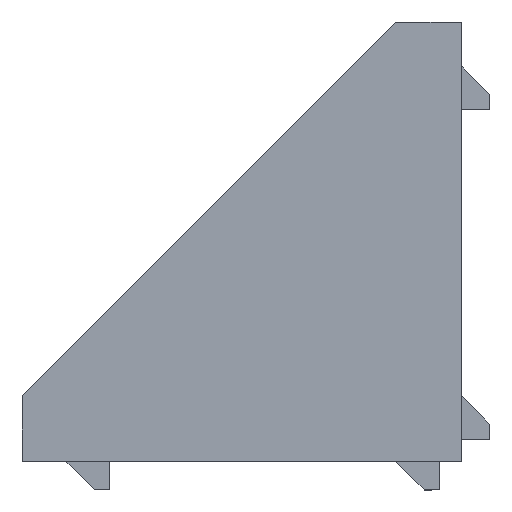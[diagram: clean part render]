
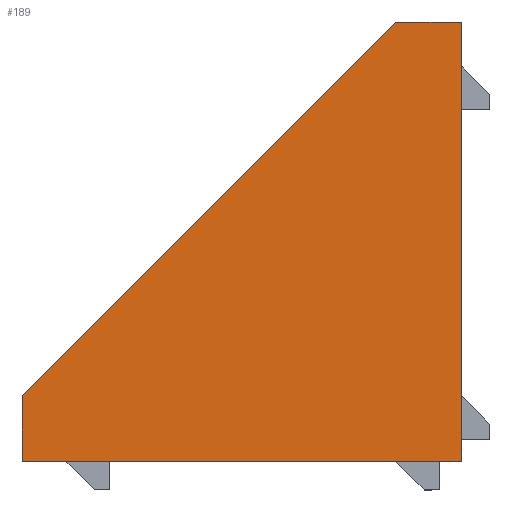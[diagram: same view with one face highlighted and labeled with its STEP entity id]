
A CAD part, left-side view. The second image highlights one B-rep face of the part: STEP entity #189.
In plain terms, the highlighted planar face has unit normal (-1, 0, 0).
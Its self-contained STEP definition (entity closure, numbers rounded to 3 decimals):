
#15 = CARTESIAN_POINT ( 'NONE',  ( -10., -10., -10. ) ) ;
#23 = FACE_OUTER_BOUND ( 'NONE', #281, .T. ) ;
#101 = DIRECTION ( 'NONE',  ( 0., 0.707, -0.707 ) ) ;
#107 = EDGE_CURVE ( 'NONE', #975, #164, #441, .T. ) ;
#110 = ORIENTED_EDGE ( 'NONE', *, *, #151, .F. ) ;
#151 = EDGE_CURVE ( 'NONE', #164, #999, #642, .T. ) ;
#164 = VERTEX_POINT ( 'NONE', #1222 ) ;
#189 = ADVANCED_FACE ( 'NONE', ( #23 ), #601, .F. ) ;
#221 = LINE ( 'NONE', #988, #738 ) ;
#263 = VECTOR ( 'NONE', #101, 1000. ) ;
#281 = EDGE_LOOP ( 'NONE', ( #360, #575, #1224, #536, #110 ) ) ;
#338 = VERTEX_POINT ( 'NONE', #393 ) ;
#351 = LINE ( 'NONE', #593, #1121 ) ;
#360 = ORIENTED_EDGE ( 'NONE', *, *, #107, .F. ) ;
#366 = EDGE_CURVE ( 'NONE', #338, #497, #351, .T. ) ;
#393 = CARTESIAN_POINT ( 'NONE',  ( -10., 10., -10. ) ) ;
#424 = CARTESIAN_POINT ( 'NONE',  ( -10., 0., 0. ) ) ;
#441 = LINE ( 'NONE', #928, #673 ) ;
#462 = EDGE_CURVE ( 'NONE', #999, #338, #221, .T. ) ;
#497 = VERTEX_POINT ( 'NONE', #588 ) ;
#536 = ORIENTED_EDGE ( 'NONE', *, *, #462, .F. ) ;
#575 = ORIENTED_EDGE ( 'NONE', *, *, #590, .T. ) ;
#588 = CARTESIAN_POINT ( 'NONE',  ( -10., 10., -7. ) ) ;
#590 = EDGE_CURVE ( 'NONE', #975, #497, #1045, .T. ) ;
#593 = CARTESIAN_POINT ( 'NONE',  ( -10., 10., -10. ) ) ;
#601 = PLANE ( 'NONE',  #1075 ) ;
#609 = DIRECTION ( 'NONE',  ( 1., 0., 0. ) ) ;
#616 = DIRECTION ( 'NONE',  ( 0., 0., -1. ) ) ;
#642 = LINE ( 'NONE', #1218, #1168 ) ;
#673 = VECTOR ( 'NONE', #1015, 1000. ) ;
#738 = VECTOR ( 'NONE', #883, 1000. ) ;
#799 = DIRECTION ( 'NONE',  ( 0., 0., 1. ) ) ;
#883 = DIRECTION ( 'NONE',  ( 0., 1., 0. ) ) ;
#928 = CARTESIAN_POINT ( 'NONE',  ( -10., -10., 10. ) ) ;
#975 = VERTEX_POINT ( 'NONE', #1134 ) ;
#988 = CARTESIAN_POINT ( 'NONE',  ( -10., -10., -10. ) ) ;
#999 = VERTEX_POINT ( 'NONE', #15 ) ;
#1015 = DIRECTION ( 'NONE',  ( 0., -1., 0. ) ) ;
#1022 = DIRECTION ( 'NONE',  ( 0., 0., -1. ) ) ;
#1045 = LINE ( 'NONE', #1316, #263 ) ;
#1075 = AXIS2_PLACEMENT_3D ( 'NONE', #424, #609, #616 ) ;
#1121 = VECTOR ( 'NONE', #799, 1000. ) ;
#1134 = CARTESIAN_POINT ( 'NONE',  ( -10., -7., 10. ) ) ;
#1168 = VECTOR ( 'NONE', #1022, 1000. ) ;
#1218 = CARTESIAN_POINT ( 'NONE',  ( -10., -10., -10. ) ) ;
#1222 = CARTESIAN_POINT ( 'NONE',  ( -10., -10., 10. ) ) ;
#1224 = ORIENTED_EDGE ( 'NONE', *, *, #366, .F. ) ;
#1316 = CARTESIAN_POINT ( 'NONE',  ( -10., -7., 10. ) ) ;
